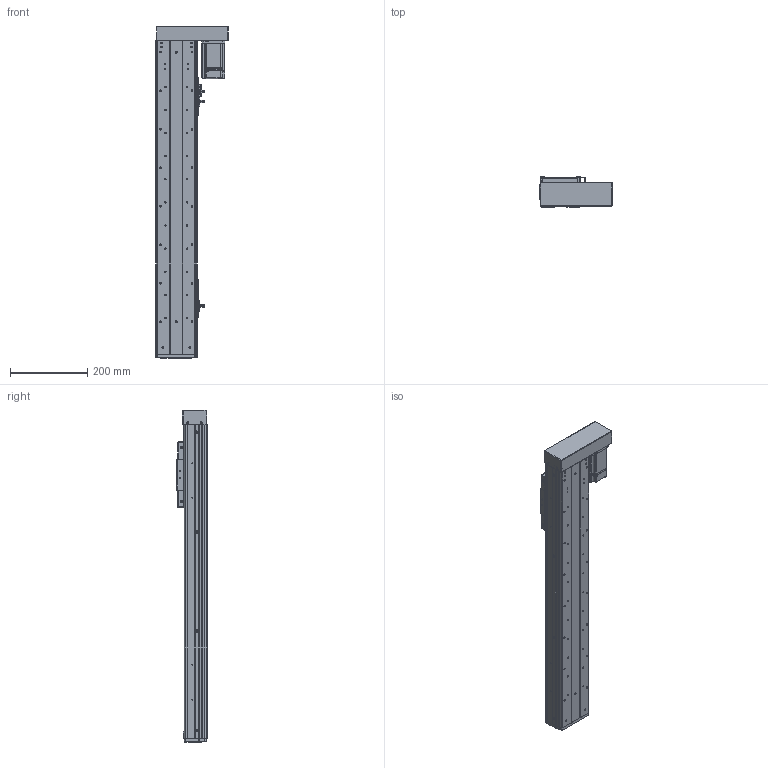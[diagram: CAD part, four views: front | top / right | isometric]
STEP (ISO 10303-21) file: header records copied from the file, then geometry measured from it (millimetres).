
FILE_DESCRIPTION (( 'STEP AP203' ), '1' );
FILE_NAME ('RY100FS-L1620-300-RK(15双轨).SLDASM_550.step', '2021-03-02T07:46:12', ( '盈信电脑' ), ( '东莞市道滘镇水果街19号' ), 'SwSTEP 2.0', 'SolidWorks 2012', '' );
FILE_SCHEMA (( 'CONFIG_CONTROL_DESIGN' ));
Products named in the file (21): RY100FS-L1620-300-RK(15邧寢).SLDASM_550; RY100FS-15邧寢蛌殏萇儂欶; RY100FS-15邧寢蛌殏萇儂啣; 蚥薯蝶紫輸; RY100FS-15邧寢蛌殏萇儂釱; 滅袉蝶14-35; RY100FS-双轨螺母座(16丝杆）; 1; RY100F-詩湍揤踡輸; 672嫖萇羲壽假蚾釱; RY80俋离覜茼え; 覜茼ん672; 棠沺沭; RY100F-詩湍幗謫粣; RY100F-綴裔啣; RY100F-詩湍揤踡謫; RY100FS-300-RK15邧寢祥凄詩湍_550; RY100FS-双轨铝滑块(上板）; RY100F-滅鳥裔啣; RY100FS-300-RK15絳寢倰第奻裔啣_550; RY100FS-300-RK15絳寢倰第菁釱_550
Assembly tree (29 placements, depth 2):
  RY100FS-L1620-300-RK(15邧寢).SLDASM_550
    RY100FS-300-RK15絳寢倰第菁釱_550
    RY100FS-300-RK15絳寢倰第奻裔啣_550  x2
    RY100FS-300-RK15邧寢祥凄詩湍_550
    RY100FS-双轨铝滑块(上板）
    RY100F-滅鳥裔啣
    棠沺沭  x2
    RY100F-詩湍幗謫粣
    RY100F-詩湍揤踡謫  x2
    RY100F-綴裔啣
    672嫖萇羲壽假蚾釱  x2
    RY80俋离覜茼え  x2
    覜茼ん672  x3
    RY100F-詩湍揤踡輸  x2
    RY100FS-双轨螺母座(16丝杆）
    RY100FS-15邧寢蛌殏萇儂釱
    滅袉蝶14-35
    1
    RY100FS-15邧寢蛌殏萇儂啣
    RY100FS-15邧寢蛌殏萇儂欶
    蚥薯蝶紫輸  x2
Bounding box: 189.5 x 78.5 x 862 mm (x, y, z)
Volume: 2228973.8 mm3; surface area: 939328.1 mm2
Topology: 29 solids, 29 shells, 2219 faces, 6004 edges, 3873 vertices
Faces by surface type: plane 1023, cylinder 995, cone 168, bspline 33
Entity records: 63151 total; most frequent: CARTESIAN_POINT 13134, DIRECTION 9987, ORIENTED_EDGE 9812, EDGE_CURVE 4906, AXIS2_PLACEMENT_3D 3530, VERTEX_POINT 3221, LINE 2927, VECTOR 2927
